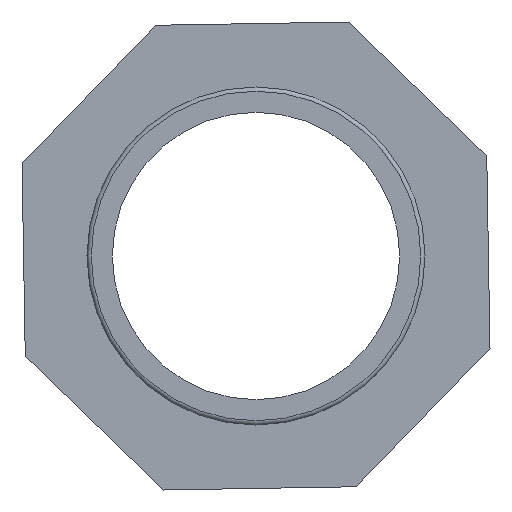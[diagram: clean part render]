
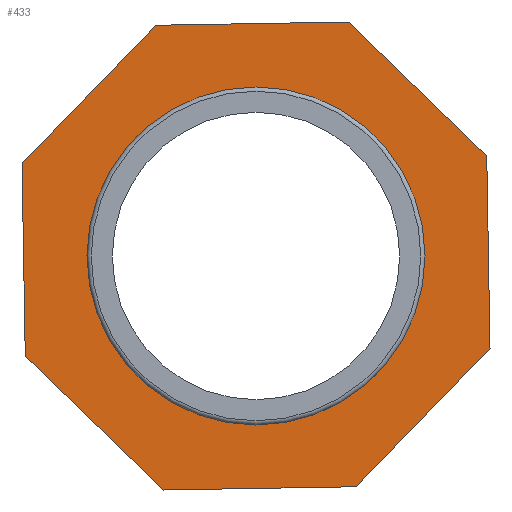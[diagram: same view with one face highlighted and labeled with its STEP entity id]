
A CAD part, left-side view. The second image highlights one B-rep face of the part: STEP entity #433.
In plain terms, the highlighted planar face has unit normal (-1, 0, 0).
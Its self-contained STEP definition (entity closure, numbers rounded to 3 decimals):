
#57=FACE_BOUND('',#130,.T.);
#64=CIRCLE('',#461,20.);
#92=FACE_OUTER_BOUND('',#129,.T.);
#129=EDGE_LOOP('',(#346,#347,#348,#349,#350,#351,#352,#353));
#130=EDGE_LOOP('',(#354));
#146=LINE('',#586,#170);
#150=LINE('',#593,#174);
#153=LINE('',#599,#177);
#156=LINE('',#605,#180);
#159=LINE('',#611,#183);
#162=LINE('',#617,#186);
#165=LINE('',#623,#189);
#167=LINE('',#626,#191);
#170=VECTOR('',#488,10.);
#174=VECTOR('',#494,10.);
#177=VECTOR('',#499,10.);
#180=VECTOR('',#504,10.);
#183=VECTOR('',#509,10.);
#186=VECTOR('',#514,10.);
#189=VECTOR('',#519,10.);
#191=VECTOR('',#523,10.);
#194=VERTEX_POINT('',#583);
#195=VERTEX_POINT('',#585);
#197=VERTEX_POINT('',#591);
#199=VERTEX_POINT('',#597);
#201=VERTEX_POINT('',#603);
#203=VERTEX_POINT('',#609);
#205=VERTEX_POINT('',#615);
#207=VERTEX_POINT('',#621);
#211=VERTEX_POINT('',#636);
#235=EDGE_CURVE('',#194,#195,#146,.T.);
#239=EDGE_CURVE('',#197,#194,#150,.T.);
#242=EDGE_CURVE('',#199,#197,#153,.T.);
#245=EDGE_CURVE('',#201,#199,#156,.T.);
#248=EDGE_CURVE('',#203,#201,#159,.T.);
#251=EDGE_CURVE('',#205,#203,#162,.T.);
#254=EDGE_CURVE('',#207,#205,#165,.T.);
#256=EDGE_CURVE('',#195,#207,#167,.T.);
#260=EDGE_CURVE('',#211,#211,#64,.T.);
#346=ORIENTED_EDGE('',*,*,#245,.F.);
#347=ORIENTED_EDGE('',*,*,#248,.F.);
#348=ORIENTED_EDGE('',*,*,#251,.F.);
#349=ORIENTED_EDGE('',*,*,#254,.F.);
#350=ORIENTED_EDGE('',*,*,#256,.F.);
#351=ORIENTED_EDGE('',*,*,#235,.F.);
#352=ORIENTED_EDGE('',*,*,#239,.F.);
#353=ORIENTED_EDGE('',*,*,#242,.F.);
#354=ORIENTED_EDGE('',*,*,#260,.F.);
#413=PLANE('',#473);
#433=ADVANCED_FACE('',(#92,#57),#413,.T.);
#461=AXIS2_PLACEMENT_3D('',#637,#536,#537);
#473=AXIS2_PLACEMENT_3D('',#654,#560,#561);
#488=DIRECTION('',(0.,-1.,0.017));
#494=DIRECTION('',(0.,-0.695,0.719));
#499=DIRECTION('',(0.,0.017,1.));
#504=DIRECTION('',(0.,0.719,0.695));
#509=DIRECTION('',(0.,1.,-0.017));
#514=DIRECTION('',(0.,0.695,-0.719));
#519=DIRECTION('',(0.,-0.017,-1.));
#523=DIRECTION('',(0.,-0.719,-0.695));
#536=DIRECTION('center_axis',(-1.,0.,0.));
#537=DIRECTION('ref_axis',(0.,0.,1.));
#560=DIRECTION('center_axis',(-1.,0.,0.));
#561=DIRECTION('ref_axis',(0.,0.,1.));
#583=CARTESIAN_POINT('',(27.601,23.855,27.303));
#585=CARTESIAN_POINT('',(27.601,1.077,27.689));
#586=CARTESIAN_POINT('',(27.601,23.855,27.303));
#591=CARTESIAN_POINT('',(27.601,39.689,10.923));
#593=CARTESIAN_POINT('',(27.601,39.689,10.923));
#597=CARTESIAN_POINT('',(27.601,39.303,-11.855));
#599=CARTESIAN_POINT('',(27.601,39.303,-11.855));
#603=CARTESIAN_POINT('',(27.601,22.923,-27.689));
#605=CARTESIAN_POINT('',(27.601,22.923,-27.689));
#609=CARTESIAN_POINT('',(27.601,0.145,-27.303));
#611=CARTESIAN_POINT('',(27.601,0.145,-27.303));
#615=CARTESIAN_POINT('',(27.601,-15.689,-10.923));
#617=CARTESIAN_POINT('',(27.601,-15.689,-10.923));
#621=CARTESIAN_POINT('',(27.601,-15.303,11.855));
#623=CARTESIAN_POINT('',(27.601,-15.303,11.855));
#626=CARTESIAN_POINT('',(27.601,1.077,27.689));
#636=CARTESIAN_POINT('',(27.601,-8.,0.));
#637=CARTESIAN_POINT('Origin',(27.601,12.,0.));
#654=CARTESIAN_POINT('Origin',(27.601,-8.,0.));
